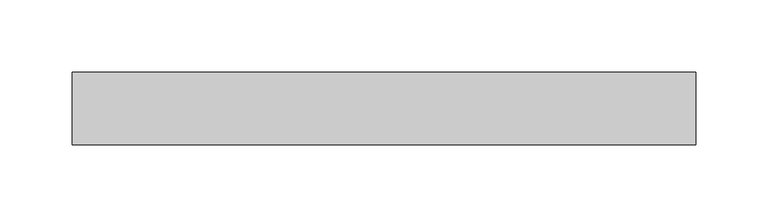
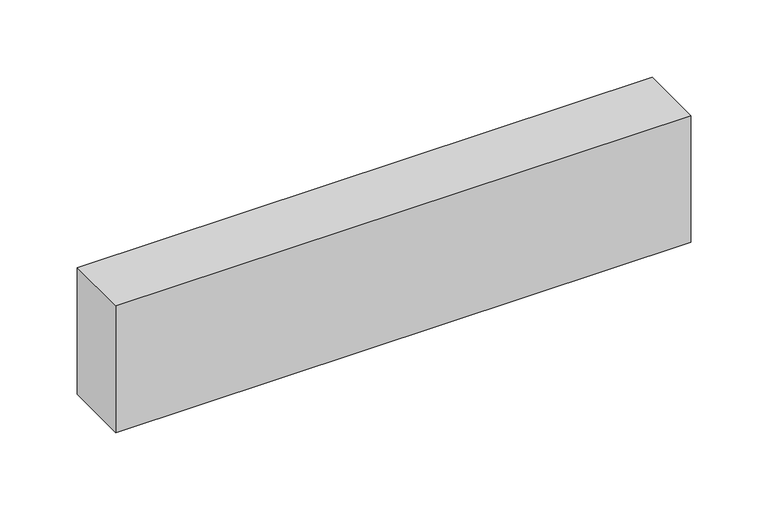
"""IFC4 building model written with IfcOpenShell, lengths in millimetres: light fixture geometry, ZYR_06.02.05 Tira Led : Tira Led 03."""

from ifc_helpers import new_model, si_unit, origin, origin_with_axes, place, context, project, spatial, polyline, outline, extrude, source, transform, mapped, element, save


def light_fixture_f5bccf42(model_context):
    return source(origin(), model_context, "Body", "SweptSolid", [
        extrude(outline(polyline([(214.8396879, 25.0), (214.8396879, -25.0), (-214.8396879, -25.0), (-214.8396879, 25.0), (214.8396879, 25.0)])), origin_with_axes(), (0.0, 0.0, 1.0), 100.0),
    ])


if __name__ == "__main__":
    model = new_model("IFC4")
    model_context = context("Model", 3, world=origin())
    ifc_project = project(units=[si_unit("LENGTHUNIT", "METRE", prefix="MILLI")], contexts=[model_context])
    site = spatial("IfcSite", under=ifc_project)
    building = spatial("IfcBuilding", under=site)
    placement = place(None, origin())
    light_fixture_shape = light_fixture_f5bccf42(model_context)
    element("IfcLightFixture", 1, ObjectType="ZYR_06.02.05 Tira Led : Tira Led 03", at=placement, inside=building, context=model_context, shape_type="MappedRepresentation", body=[
        mapped(light_fixture_shape, transform((0.0, 0.0, 0.0), x_axis=(1.0, 0.0, 0.0), y_axis=(0.0, 1.0, 0.0), z_axis=(0.0, 0.0, 1.0))),
    ])
    save(model, "model.ifc")
